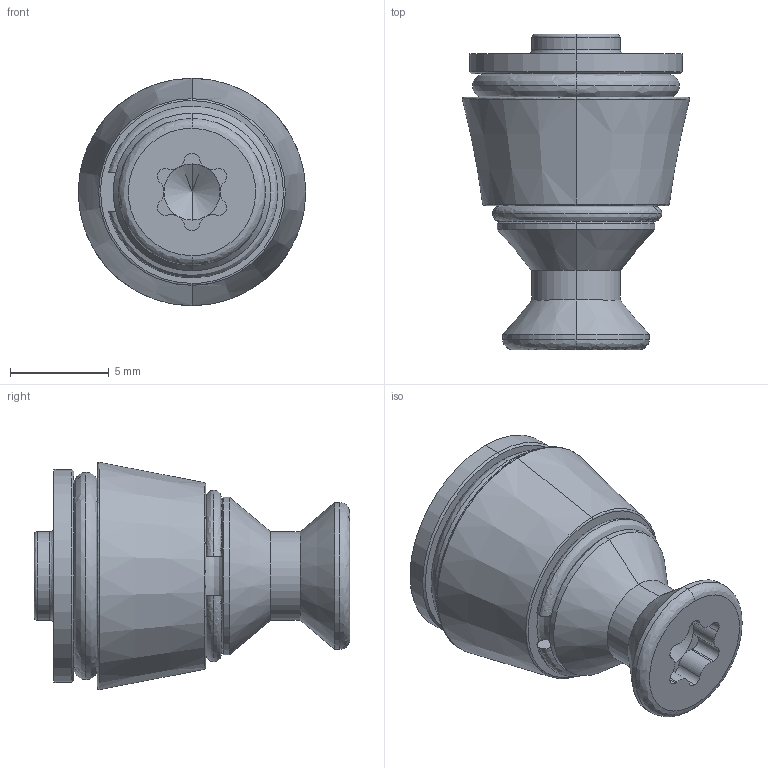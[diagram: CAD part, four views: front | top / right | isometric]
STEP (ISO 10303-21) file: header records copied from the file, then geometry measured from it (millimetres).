
FILE_DESCRIPTION (( 'STEP AP203' ), '1' );
FILE_NAME ('QS022-IC-M4.STEP', '2017-06-07T06:58:49', ( '' ), ( '' ), 'SwSTEP 2.0', 'SolidWorks 2017', '' );
FILE_SCHEMA (( 'CONFIG_CONTROL_DESIGN' ));
Length unit declared in the file: millimetre
Products named in the file (1): QS022-IC-M4
Bounding box: 11.53 x 16 x 11.53 mm (x, y, z)
Volume: 813.9 mm3; surface area: 1245.2 mm2
Topology: 4 solids, 4 shells, 83 faces, 183 edges, 106 vertices
Faces by surface type: cylinder 33, bspline 22, cone 14, plane 14
Entity records: 2752 total; most frequent: CARTESIAN_POINT 903, DIRECTION 403, ORIENTED_EDGE 358, EDGE_CURVE 179, AXIS2_PLACEMENT_3D 178, CIRCLE 116, VERTEX_POINT 106, EDGE_LOOP 89
